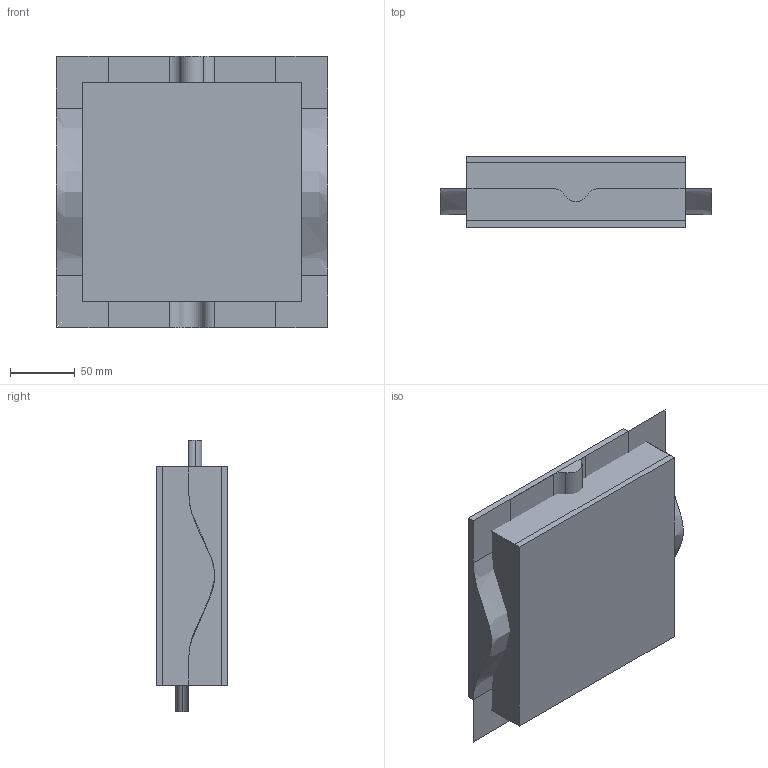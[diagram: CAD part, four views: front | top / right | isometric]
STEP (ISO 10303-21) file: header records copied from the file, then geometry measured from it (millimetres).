
FILE_DESCRIPTION(('CATIA V5 STEP Exchange'),'2;1');
FILE_NAME('C:\_Andres\UNIVERSIDAD\IQS\ASIGNATURAS\DAO\EXF\EXF-16172c\2inicio\Sala_Ferrero_Ej02_v29.stp','2017-03-05T15:45:37+00:00',('none'),('none'),'CATIA Version 5-6 Release 2014 SP1 HF18','CATIA V5 STEP AP203','none');
FILE_SCHEMA(('CONFIG_CONTROL_DESIGN'));
Length unit declared in the file: millimetre
Products named in the file (1): Sala_Ferrero_Ej02_v29
Bounding box: 209 x 55 x 209 mm (x, y, z)
Surface area: 284021.2 mm2
Topology: 3 solids, 10 shells, 72 faces, 205 edges, 150 vertices
Faces by surface type: bspline 32, plane 32, cylinder 6, extrusion 2
Entity records: 5924 total; most frequent: CARTESIAN_POINT 4607, ORIENTED_EDGE 288, DIRECTION 151, EDGE_CURVE 132, VERTEX_POINT 84, VECTOR 77, LINE 75, ADVANCED_FACE 72
